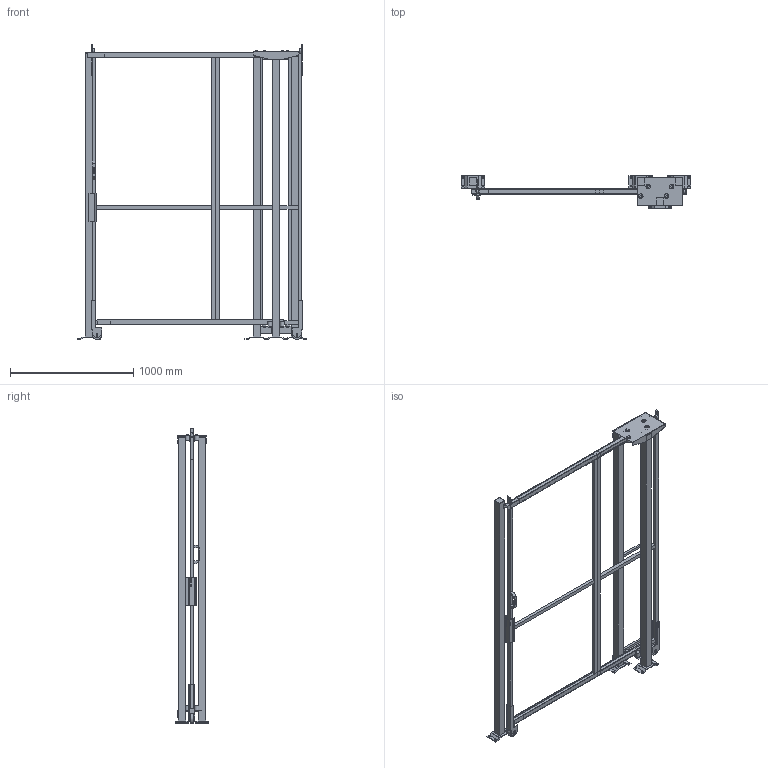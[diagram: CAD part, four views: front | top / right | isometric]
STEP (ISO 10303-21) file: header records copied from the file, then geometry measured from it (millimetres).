
FILE_DESCRIPTION(/* description */ (''),/* implementation_level */ '2;1');
FILE_NAME(/* name */ 'C:\SafeGuarding\ELABORATI\KLADKA_2025-03-20-08-13-37.stp',/* time_stamp */ '2025-03-20T08:13:41+01:00',/* author */ ('admin'),/* organization */ (''),/* preprocessor_version */ 'ST-DEVELOPER v18.1',/* originating_system */ 'AutoCAD Mechanical',/* authorisation */ '');
FILE_SCHEMA (('AUTOMOTIVE_DESIGN { 1 0 10303 214 3 1 1 }'));
Length unit declared in the file: millimetre
Products named in the file (5): Product; R_VFPA.REPE30.07002200; R_VFPA.REPE30.10002200; R_VFPA.REPE20.02502200; P_VFMA.V360SDU.2320
Assembly tree (7 placements, depth 2):
  Product
    R_VFPA.REPE30.07002200
    R_VFPA.REPE30.10002200
    R_VFPA.REPE20.02502200
    P_VFMA.V360SDU.2320  x4
Bounding box: 1862.03 x 264.11 x 2390.02 mm (x, y, z)
Volume: 50932054.2 mm3; surface area: 6643603.9 mm2
Topology: 60 solids, 71 shells, 549 faces, 1677 edges, 1665 vertices
Faces by surface type: plane 497, cylinder 50, sphere 2
Full cylindrical faces by diameter (mm): 9 x4, 11 x16, 13 x4, 30 x6, 36 x8, 80 x2
Entity records: 15723 total; most frequent: CARTESIAN_POINT 3353, DIRECTION 2389, ORIENTED_EDGE 2178, LINE 1159, VECTOR 1159, EDGE_CURVE 1138, VERTEX_POINT 798, AXIS2_PLACEMENT_3D 615
